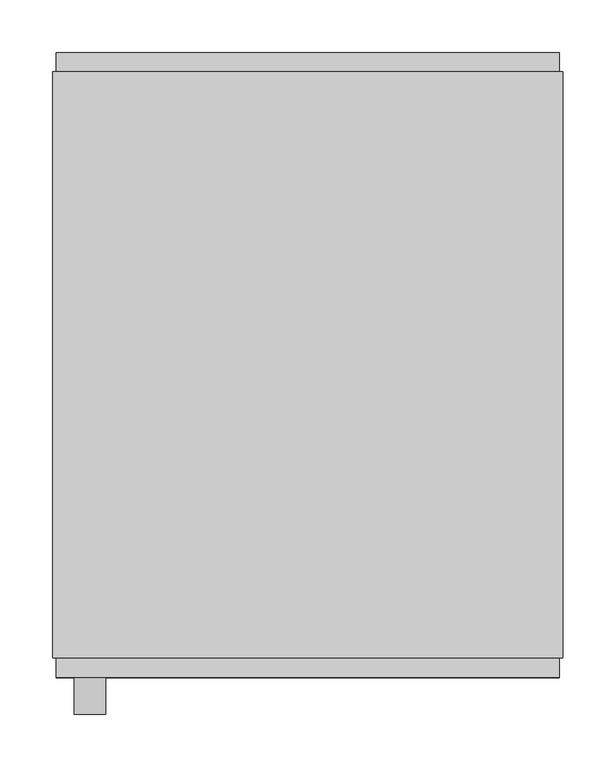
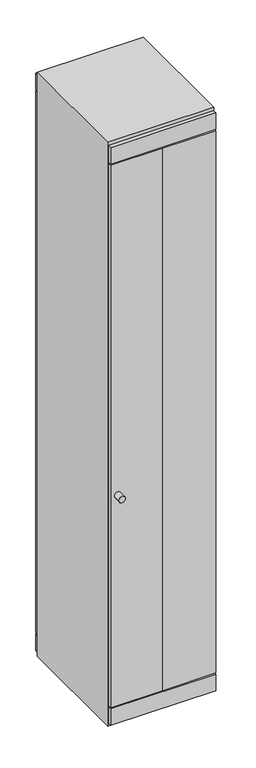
"""IFC4 building model written with IfcOpenShell, lengths in millimetres: furniture geometry, Apex - 1 DOOR - FC OR CAPPED : 1 DOOR - F/C OR CAPPED 500mm(w) x 590mm(d)."""

from ifc_helpers import new_model, si_unit, point, frame, frame_2d, origin, place, context, project, spatial, polyline, circle_curve, trimmed, segment, composite_curve, outline, extrude, source, transform, mapped, element, save


def furniture_98cb0a5e(model_context):
    return source(origin(), model_context, "Body", "SweptSolid", [
        extrude(outline(composite_curve([segment(trimmed(circle_curve(frame_2d((1108.0, 35.0)), 15.0), [point((1108.0, 20.0))], [point((1108.0, 50.0))], False, "CARTESIAN"), True, "CONTINUOUS"), segment(trimmed(circle_curve(frame_2d((1108.0, 35.0)), 15.0), [point((1108.0, 50.0))], [point((1108.0, 20.0))], False, "CARTESIAN"), True, "CONTINUOUS")], self_intersect=False)), frame((0.0, -625.0, 0.0), z_axis=(0.0, 1.0, 0.0), x_axis=(0.0, 0.0, 1.0)), (0.0, 0.0, 1.0), 35.0),
        extrude(outline(polyline([(2800.0, 482.0), (2800.0, 0.0), (0.0, 0.0), (0.0, 482.0), (2800.0, 482.0)]), holes=[polyline([(115.0, 473.0), (115.0, 9.0), (2685.2991236, 9.0), (2685.2991236, 473.0), (115.0, 473.0)])]), frame((0.0, -572.0, 0.0), z_axis=(0.0, 1.0, 0.0), x_axis=(0.0, 0.0, 1.0)), (0.0, 0.0, 1.0), 554.0),
        extrude(outline(polyline([(236.0, -572.0), (479.0, -572.0), (479.0, -590.0), (236.0, -590.0), (3.0, -590.0), (3.0, -572.0), (236.0, -572.0)])), frame((0.0, 0.0, 100.0), z_axis=(0.0, 0.0, 1.0), x_axis=(1.0, 0.0, 0.0)), (0.0, 0.0, 1.0), 2600.0),
        extrude(outline(polyline([(479.0, 0.0), (479.0, -18.0), (3.0, -18.0), (3.0, 0.0), (479.0, 0.0)])), frame((0.0, 0.0, 100.0), z_axis=(0.0, 0.0, 1.0), x_axis=(1.0, 0.0, 0.0)), (0.0, 0.0, 1.0), 2600.0),
        extrude(outline(polyline([(479.0, -18.0), (3.0, -18.0), (3.0, 0.0), (479.0, 0.0), (479.0, -18.0)])), frame((0.0, 0.0, 2706.0), z_axis=(0.0, 0.0, 1.0), x_axis=(1.0, 0.0, 0.0)), (0.0, 0.0, 1.0), 79.0),
        extrude(outline(polyline([(479.0, -18.0), (3.0, -18.0), (3.0, 0.0), (479.0, 0.0), (479.0, -18.0)])), frame((0.0, 0.0, 15.0), z_axis=(0.0, 0.0, 1.0), x_axis=(1.0, 0.0, 0.0)), (0.0, 0.0, 1.0), 79.0),
        extrude(outline(polyline([(479.0, -590.0), (3.0, -590.0), (3.0, -572.0), (479.0, -572.0), (479.0, -590.0)])), frame((0.0, 0.0, 2706.0), z_axis=(0.0, 0.0, 1.0), x_axis=(1.0, 0.0, 0.0)), (0.0, 0.0, 1.0), 79.0),
        extrude(outline(polyline([(479.0, -590.0), (3.0, -590.0), (3.0, -572.0), (479.0, -572.0), (479.0, -590.0)])), frame((0.0, 0.0, 15.0), z_axis=(0.0, 0.0, 1.0), x_axis=(1.0, 0.0, 0.0)), (0.0, 0.0, 1.0), 79.0),
    ])


if __name__ == "__main__":
    model = new_model("IFC4")
    model_context = context("Model", 3, world=origin())
    ifc_project = project(units=[si_unit("LENGTHUNIT", "METRE", prefix="MILLI")], contexts=[model_context])
    site = spatial("IfcSite", under=ifc_project)
    building = spatial("IfcBuilding", under=site)
    placement = place(None, origin())
    furniture_shape = furniture_98cb0a5e(model_context)
    element("IfcFurniture", 1, ObjectType="Apex - 1 DOOR - FC OR CAPPED : 1 DOOR - F/C OR CAPPED 500mm(w) x 590mm(d)", at=placement, inside=building, context=model_context, shape_type="MappedRepresentation", body=[
        mapped(furniture_shape, transform((0.0, 0.0, 0.0), x_axis=(1.0, 0.0, 0.0), y_axis=(0.0, 1.0, 0.0), z_axis=(0.0, 0.0, 1.0))),
    ])
    save(model, "model.ifc")
